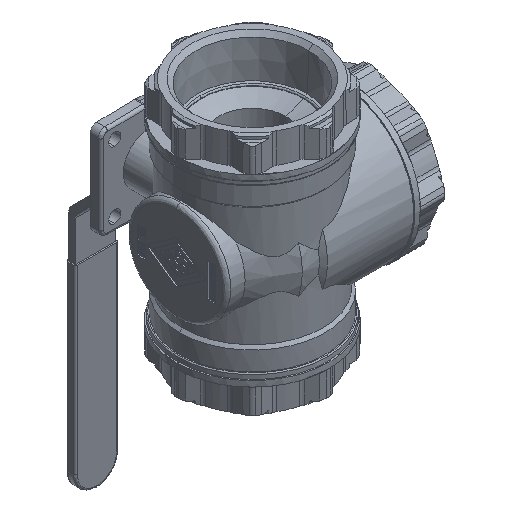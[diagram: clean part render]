
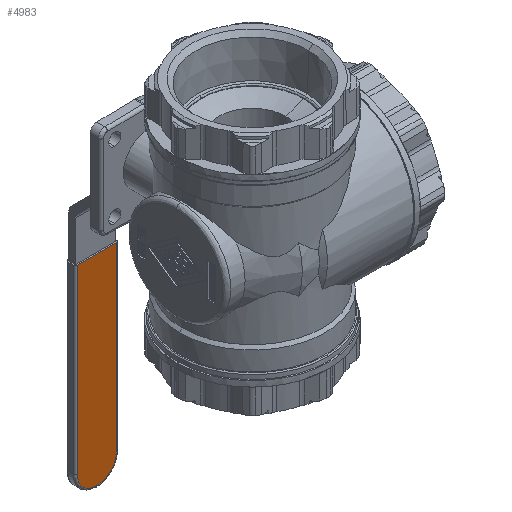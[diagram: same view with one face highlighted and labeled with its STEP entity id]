
A CAD part, isometric view. The second image highlights one B-rep face of the part: STEP entity #4983.
In plain terms, the highlighted planar face has unit normal (0, -1, 0).
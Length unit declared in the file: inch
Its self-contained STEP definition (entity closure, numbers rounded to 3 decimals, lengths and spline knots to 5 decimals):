
#398 = ORIENTED_EDGE ( 'NONE', *, *, #25545, .F. ) ;
#1066 = VECTOR ( 'NONE', #9070, 39.37008 ) ;
#1732 = CARTESIAN_POINT ( 'NONE',  ( -0.57087, 4.52756, -8.76104 ) ) ;
#3870 = DIRECTION ( 'NONE',  ( 0., 1., 0. ) ) ;
#4983 = ADVANCED_FACE ( 'NONE', ( #27308 ), #20975, .F. ) ;
#5590 = CARTESIAN_POINT ( 'NONE',  ( 0.57087, 4.52756, -8.76104 ) ) ;
#6183 = CARTESIAN_POINT ( 'NONE',  ( 0.57087, 4.52756, 0. ) ) ;
#8706 = LINE ( 'NONE', #6183, #1066 ) ;
#9070 = DIRECTION ( 'NONE',  ( 0., 0., -1. ) ) ;
#9269 = CARTESIAN_POINT ( 'NONE',  ( 0.57087, 4.52756, -3.14961 ) ) ;
#9395 = VERTEX_POINT ( 'NONE', #22493 ) ;
#9689 = CARTESIAN_POINT ( 'NONE',  ( 0.00394, 4.52756, -8.99587 ) ) ;
#9880 = VERTEX_POINT ( 'NONE', #9269 ) ;
#10746 = DIRECTION ( 'NONE',  ( 1., 0., 0. ) ) ;
#11178 = VECTOR ( 'NONE', #10746, 39.37008 ) ;
#12050 = VERTEX_POINT ( 'NONE', #13071 ) ;
#13071 = CARTESIAN_POINT ( 'NONE',  ( 0.57087, 4.52756, -8.42894 ) ) ;
#14014 = CARTESIAN_POINT ( 'NONE',  ( 0., 4.52756, -8.99587 ) ) ;
#14408 = ORIENTED_EDGE ( 'NONE', *, *, #29430, .F. ) ;
#15034 = EDGE_CURVE ( 'NONE', #25264, #9395, #31872, .T. ) ;
#15555 =( BOUNDED_CURVE ( )  B_SPLINE_CURVE ( 3, ( #28468, #5590, #34298, #17074 ),
 .UNSPECIFIED., .F., .T. ) 
 B_SPLINE_CURVE_WITH_KNOTS ( ( 4, 4 ),
 ( 0., 1. ),
 .UNSPECIFIED. ) 
 CURVE ( )  GEOMETRIC_REPRESENTATION_ITEM ( )  RATIONAL_B_SPLINE_CURVE ( ( 1., 0.805, 0.805, 1. ) ) 
 REPRESENTATION_ITEM ( '' )  );
#16007 = CARTESIAN_POINT ( 'NONE',  ( -0.00394, 4.52756, -8.99587 ) ) ;
#16247 = ORIENTED_EDGE ( 'NONE', *, *, #30313, .F. ) ;
#16587 = VECTOR ( 'NONE', #25397, 39.37008 ) ;
#16684 = DIRECTION ( 'NONE',  ( 0., 0., 1. ) ) ;
#17074 = CARTESIAN_POINT ( 'NONE',  ( 0.00394, 4.52756, -8.99587 ) ) ;
#18737 = LINE ( 'NONE', #19217, #11178 ) ;
#18858 = VERTEX_POINT ( 'NONE', #18930 ) ;
#18930 = CARTESIAN_POINT ( 'NONE',  ( -0.57087, 4.52756, -3.14961 ) ) ;
#19217 = CARTESIAN_POINT ( 'NONE',  ( 0.62992, 4.52756, -3.14961 ) ) ;
#19312 = EDGE_LOOP ( 'NONE', ( #34749, #16247, #14408, #398, #24018, #35251 ) ) ;
#19914 =( BOUNDED_CURVE ( )  B_SPLINE_CURVE ( 3, ( #16007, #33208, #1732, #21746 ),
 .UNSPECIFIED., .F., .F. ) 
 B_SPLINE_CURVE_WITH_KNOTS ( ( 4, 4 ),
 ( 0., 1. ),
 .UNSPECIFIED. ) 
 CURVE ( )  GEOMETRIC_REPRESENTATION_ITEM ( )  RATIONAL_B_SPLINE_CURVE ( ( 1., 0.805, 0.805, 1. ) ) 
 REPRESENTATION_ITEM ( '' )  );
#20806 = VECTOR ( 'NONE', #16684, 39.37008 ) ;
#20975 = PLANE ( 'NONE',  #34814 ) ;
#21746 = CARTESIAN_POINT ( 'NONE',  ( -0.57087, 4.52756, -8.42894 ) ) ;
#22190 = VERTEX_POINT ( 'NONE', #30070 ) ;
#22493 = CARTESIAN_POINT ( 'NONE',  ( -0.00394, 4.52756, -8.99587 ) ) ;
#23852 = DIRECTION ( 'NONE',  ( -1., 0., 0. ) ) ;
#24018 = ORIENTED_EDGE ( 'NONE', *, *, #31857, .F. ) ;
#25264 = VERTEX_POINT ( 'NONE', #9689 ) ;
#25397 = DIRECTION ( 'NONE',  ( -1., 0., 0. ) ) ;
#25545 = EDGE_CURVE ( 'NONE', #22190, #18858, #35224, .T. ) ;
#27308 = FACE_OUTER_BOUND ( 'NONE', #19312, .T. ) ;
#28468 = CARTESIAN_POINT ( 'NONE',  ( 0.57087, 4.52756, -8.42894 ) ) ;
#29430 = EDGE_CURVE ( 'NONE', #18858, #9880, #18737, .T. ) ;
#30070 = CARTESIAN_POINT ( 'NONE',  ( -0.57087, 4.52756, -8.42894 ) ) ;
#30313 = EDGE_CURVE ( 'NONE', #9880, #12050, #8706, .T. ) ;
#31857 = EDGE_CURVE ( 'NONE', #9395, #22190, #19914, .T. ) ;
#31872 = LINE ( 'NONE', #14014, #16587 ) ;
#33208 = CARTESIAN_POINT ( 'NONE',  ( -0.33604, 4.52756, -8.99587 ) ) ;
#33903 = CARTESIAN_POINT ( 'NONE',  ( -0.57087, 4.52756, 0. ) ) ;
#34055 = EDGE_CURVE ( 'NONE', #12050, #25264, #15555, .T. ) ;
#34298 = CARTESIAN_POINT ( 'NONE',  ( 0.33604, 4.52756, -8.99587 ) ) ;
#34749 = ORIENTED_EDGE ( 'NONE', *, *, #34055, .F. ) ;
#34814 = AXIS2_PLACEMENT_3D ( 'NONE', #35328, #3870, #23852 ) ;
#35224 = LINE ( 'NONE', #33903, #20806 ) ;
#35251 = ORIENTED_EDGE ( 'NONE', *, *, #15034, .F. ) ;
#35328 = CARTESIAN_POINT ( 'NONE',  ( 0., 4.52756, 0. ) ) ;
